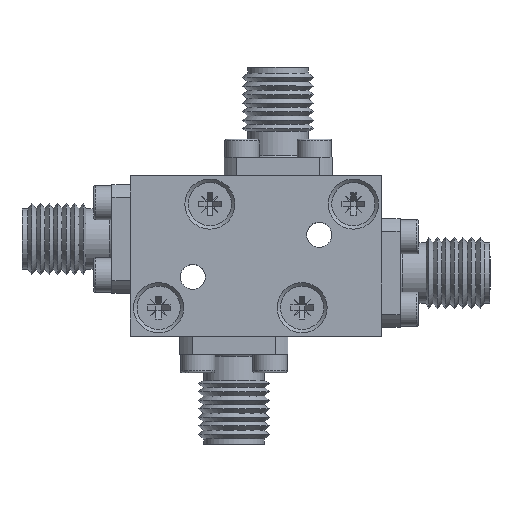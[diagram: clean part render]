
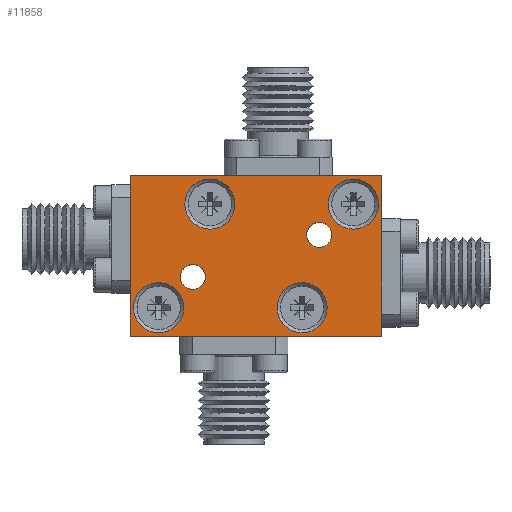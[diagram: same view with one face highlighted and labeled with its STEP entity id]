
A CAD part, top view. The second image highlights one B-rep face of the part: STEP entity #11858.
In plain terms, the highlighted planar face has unit normal (0, 0, 1).
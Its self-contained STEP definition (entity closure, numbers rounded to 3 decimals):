
#116=LINE('',#15763,#720);
#117=LINE('',#15771,#721);
#118=LINE('',#15773,#722);
#119=LINE('',#15780,#723);
#120=LINE('',#15782,#724);
#121=LINE('',#15784,#725);
#720=VECTOR('',#13377,1000.);
#721=VECTOR('',#13378,1000.);
#722=VECTOR('',#13379,1000.);
#723=VECTOR('',#13380,1000.);
#724=VECTOR('',#13381,1000.);
#725=VECTOR('',#13382,1000.);
#1324=PLANE('',#12479);
#1666=B_SPLINE_CURVE_WITH_KNOTS('',3,(#15766,#15767,#15768,#15769),
 .UNSPECIFIED.,.F.,.F.,(4,4),(0.,1.),.UNSPECIFIED.);
#1667=B_SPLINE_CURVE_WITH_KNOTS('',3,(#15775,#15776,#15777,#15778),
 .UNSPECIFIED.,.F.,.F.,(4,4),(0.,1.),.UNSPECIFIED.);
#1890=ORIENTED_EDGE('',*,*,#3926,.T.);
#1891=ORIENTED_EDGE('',*,*,#3927,.F.);
#1892=ORIENTED_EDGE('',*,*,#3928,.T.);
#1893=ORIENTED_EDGE('',*,*,#3929,.T.);
#1894=ORIENTED_EDGE('',*,*,#3930,.F.);
#1895=ORIENTED_EDGE('',*,*,#3931,.T.);
#1896=ORIENTED_EDGE('',*,*,#3932,.T.);
#1897=ORIENTED_EDGE('',*,*,#3933,.T.);
#1898=ORIENTED_EDGE('',*,*,#3919,.T.);
#1899=ORIENTED_EDGE('',*,*,#3917,.T.);
#1900=ORIENTED_EDGE('',*,*,#3915,.T.);
#1901=ORIENTED_EDGE('',*,*,#3913,.T.);
#1902=ORIENTED_EDGE('',*,*,#3923,.F.);
#1903=ORIENTED_EDGE('',*,*,#3920,.F.);
#3913=EDGE_CURVE('',#4931,#4931,#5735,.T.);
#3915=EDGE_CURVE('',#4933,#4933,#5737,.T.);
#3917=EDGE_CURVE('',#4935,#4935,#5739,.T.);
#3919=EDGE_CURVE('',#4937,#4937,#5741,.T.);
#3920=EDGE_CURVE('',#4938,#4938,#5742,.T.);
#3923=EDGE_CURVE('',#4941,#4941,#5743,.T.);
#3926=EDGE_CURVE('',#4944,#4945,#116,.T.);
#3927=EDGE_CURVE('',#4946,#4945,#1666,.F.);
#3928=EDGE_CURVE('',#4946,#4947,#117,.T.);
#3929=EDGE_CURVE('',#4947,#4948,#118,.T.);
#3930=EDGE_CURVE('',#4949,#4948,#1667,.F.);
#3931=EDGE_CURVE('',#4949,#4950,#119,.T.);
#3932=EDGE_CURVE('',#4950,#4951,#120,.T.);
#3933=EDGE_CURVE('',#4951,#4944,#121,.T.);
#4931=VERTEX_POINT('',#15708);
#4933=VERTEX_POINT('',#15713);
#4935=VERTEX_POINT('',#15718);
#4937=VERTEX_POINT('',#15723);
#4938=VERTEX_POINT('',#15726);
#4941=VERTEX_POINT('',#15745);
#4944=VERTEX_POINT('',#15764);
#4945=VERTEX_POINT('',#15765);
#4946=VERTEX_POINT('',#15770);
#4947=VERTEX_POINT('',#15772);
#4948=VERTEX_POINT('',#15774);
#4949=VERTEX_POINT('',#15779);
#4950=VERTEX_POINT('',#15781);
#4951=VERTEX_POINT('',#15783);
#5735=CIRCLE('',#12465,2.2);
#5737=CIRCLE('',#12468,2.2);
#5739=CIRCLE('',#12471,2.2);
#5741=CIRCLE('',#12474,2.2);
#5742=CIRCLE('',#12476,1.1);
#5743=CIRCLE('',#12478,1.1);
#6058=EDGE_LOOP('',(#1890,#1891,#1892,#1893,#1894,#1895,#1896,#1897));
#6059=EDGE_LOOP('',(#1898));
#6060=EDGE_LOOP('',(#1899));
#6061=EDGE_LOOP('',(#1900));
#6062=EDGE_LOOP('',(#1901));
#6063=EDGE_LOOP('',(#1902));
#6064=EDGE_LOOP('',(#1903));
#6914=FACE_BOUND('',#6058,.T.);
#6915=FACE_BOUND('',#6059,.T.);
#6916=FACE_BOUND('',#6060,.T.);
#6917=FACE_BOUND('',#6061,.T.);
#6918=FACE_BOUND('',#6062,.T.);
#6919=FACE_BOUND('',#6063,.T.);
#6920=FACE_BOUND('',#6064,.T.);
#11858=ADVANCED_FACE('',(#6914,#6915,#6916,#6917,#6918,#6919,#6920),#1324,
 .T.);
#12465=AXIS2_PLACEMENT_3D('',#15707,#13347,#13348);
#12468=AXIS2_PLACEMENT_3D('',#15712,#13353,#13354);
#12471=AXIS2_PLACEMENT_3D('',#15717,#13359,#13360);
#12474=AXIS2_PLACEMENT_3D('',#15722,#13365,#13366);
#12476=AXIS2_PLACEMENT_3D('',#15725,#13369,#13370);
#12478=AXIS2_PLACEMENT_3D('',#15744,#13373,#13374);
#12479=AXIS2_PLACEMENT_3D('',#15762,#13375,#13376);
#13347=DIRECTION('',(0.,0.,-1.));
#13348=DIRECTION('',(0.,1.,0.));
#13353=DIRECTION('',(0.,0.,-1.));
#13354=DIRECTION('',(0.,1.,0.));
#13359=DIRECTION('',(0.,0.,-1.));
#13360=DIRECTION('',(0.,1.,0.));
#13365=DIRECTION('',(0.,0.,-1.));
#13366=DIRECTION('',(0.,1.,0.));
#13369=DIRECTION('',(0.,0.,1.));
#13370=DIRECTION('',(1.,0.,0.));
#13373=DIRECTION('',(0.,0.,1.));
#13374=DIRECTION('',(1.,0.,0.));
#13375=DIRECTION('',(0.,0.,1.));
#13376=DIRECTION('',(1.,0.,0.));
#13377=DIRECTION('',(0.,-1.,0.));
#13378=DIRECTION('',(0.,-1.,0.));
#13379=DIRECTION('',(1.,0.,0.));
#13380=DIRECTION('',(1.,0.,0.));
#13381=DIRECTION('',(0.,1.,0.));
#13382=DIRECTION('',(-1.,0.,0.));
#15707=CARTESIAN_POINT('',(-8.55,-4.55,4.));
#15708=CARTESIAN_POINT('',(-8.55,-2.35,4.));
#15712=CARTESIAN_POINT('',(4.05,-4.55,4.));
#15713=CARTESIAN_POINT('',(4.05,-2.35,4.));
#15717=CARTESIAN_POINT('',(8.55,4.55,4.));
#15718=CARTESIAN_POINT('',(8.55,6.75,4.));
#15722=CARTESIAN_POINT('',(-4.05,4.55,4.));
#15723=CARTESIAN_POINT('',(-4.05,6.75,4.));
#15725=CARTESIAN_POINT('',(5.55,1.851,4.));
#15726=CARTESIAN_POINT('',(6.65,1.851,4.));
#15744=CARTESIAN_POINT('',(-5.55,-1.848,4.));
#15745=CARTESIAN_POINT('',(-4.45,-1.848,4.));
#15762=CARTESIAN_POINT('',(0.,0.,4.));
#15763=CARTESIAN_POINT('',(-11.05,7.05,4.));
#15764=CARTESIAN_POINT('',(-11.05,7.05,4.));
#15765=CARTESIAN_POINT('',(-11.05,5.162,4.));
#15766=CARTESIAN_POINT('',(-11.05,5.162,4.));
#15767=CARTESIAN_POINT('',(-11.05,2.718,4.));
#15768=CARTESIAN_POINT('',(-11.05,0.274,4.));
#15769=CARTESIAN_POINT('',(-11.05,-2.17,4.));
#15770=CARTESIAN_POINT('',(-11.05,-2.17,4.));
#15771=CARTESIAN_POINT('',(-11.05,7.05,4.));
#15772=CARTESIAN_POINT('',(-11.05,-7.05,4.));
#15773=CARTESIAN_POINT('',(-11.05,-7.05,4.));
#15774=CARTESIAN_POINT('',(-5.609,-7.05,4.));
#15775=CARTESIAN_POINT('',(-5.609,-7.05,4.));
#15776=CARTESIAN_POINT('',(-3.165,-7.05,4.));
#15777=CARTESIAN_POINT('',(-0.722,-7.05,4.));
#15778=CARTESIAN_POINT('',(1.722,-7.05,4.));
#15779=CARTESIAN_POINT('',(1.722,-7.05,4.));
#15780=CARTESIAN_POINT('',(-11.05,-7.05,4.));
#15781=CARTESIAN_POINT('',(11.05,-7.05,4.));
#15782=CARTESIAN_POINT('',(11.05,-7.05,4.));
#15783=CARTESIAN_POINT('',(11.05,7.05,4.));
#15784=CARTESIAN_POINT('',(11.05,7.05,4.));
